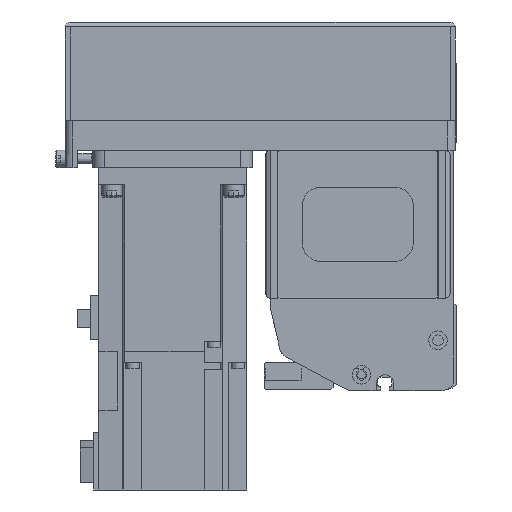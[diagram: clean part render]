
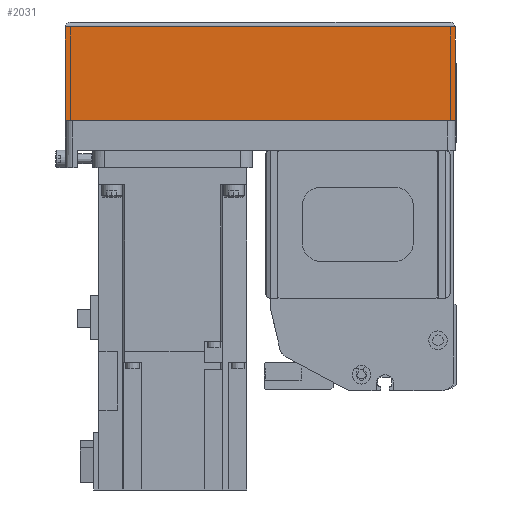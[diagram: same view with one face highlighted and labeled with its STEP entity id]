
A CAD part, left-side view. The second image highlights one B-rep face of the part: STEP entity #2031.
In plain terms, the highlighted planar face has unit normal (-1, 0, 0) as drawn and (0, 1, 0) by its records, which use the part's own axes.
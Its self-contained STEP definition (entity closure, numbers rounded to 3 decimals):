
#2031 = ADVANCED_FACE( '', ( #4800 ), #4801, .T. );
#4800 = FACE_OUTER_BOUND( '', #8541, .T. );
#4801 = PLANE( '', #8542 );
#8541 = EDGE_LOOP( '', ( #14403, #14404, #14405, #14406 ) );
#8542 = AXIS2_PLACEMENT_3D( '', #14407, #14408, #14409 );
#14403 = ORIENTED_EDGE( '', *, *, #22653, .F. );
#14404 = ORIENTED_EDGE( '', *, *, #22654, .F. );
#14405 = ORIENTED_EDGE( '', *, *, #22655, .T. );
#14406 = ORIENTED_EDGE( '', *, *, #21435, .T. );
#14407 = CARTESIAN_POINT( '', ( -158., 39., -50. ) );
#14408 = DIRECTION( '', ( 0., 1., 0. ) );
#14409 = DIRECTION( '', ( 0., 0., 1. ) );
#21435 = EDGE_CURVE( '', #25735, #25733, #25736, .T. );
#22653 = EDGE_CURVE( '', #27693, #25733, #27694, .T. );
#22654 = EDGE_CURVE( '', #27592, #27693, #27695, .T. );
#22655 = EDGE_CURVE( '', #27592, #25735, #27696, .T. );
#25733 = VERTEX_POINT( '', #32056 );
#25735 = VERTEX_POINT( '', #32059 );
#25736 = LINE( '', #32060, #32061 );
#27592 = VERTEX_POINT( '', #34893 );
#27693 = VERTEX_POINT( '', #35024 );
#27694 = LINE( '', #35025, #35026 );
#27695 = LINE( '', #35027, #35028 );
#27696 = LINE( '', #35029, #35030 );
#32056 = CARTESIAN_POINT( '', ( 0., 39., -12.1 ) );
#32059 = CARTESIAN_POINT( '', ( -158., 39., -12.1 ) );
#32060 = CARTESIAN_POINT( '', ( -158., 39., -12.1 ) );
#32061 = VECTOR( '', #39967, 1000. );
#34893 = CARTESIAN_POINT( '', ( -158., 39., -50. ) );
#35024 = CARTESIAN_POINT( '', ( 0., 39., -50. ) );
#35025 = CARTESIAN_POINT( '', ( 0., 39., -50. ) );
#35026 = VECTOR( '', #41516, 1000. );
#35027 = CARTESIAN_POINT( '', ( -158., 39., -50. ) );
#35028 = VECTOR( '', #41517, 1000. );
#35029 = CARTESIAN_POINT( '', ( -158., 39., -50. ) );
#35030 = VECTOR( '', #41518, 1000. );
#39967 = DIRECTION( '', ( 1., 0., 0. ) );
#41516 = DIRECTION( '', ( 0., 0., 1. ) );
#41517 = DIRECTION( '', ( 1., 0., 0. ) );
#41518 = DIRECTION( '', ( 0., 0., 1. ) );
